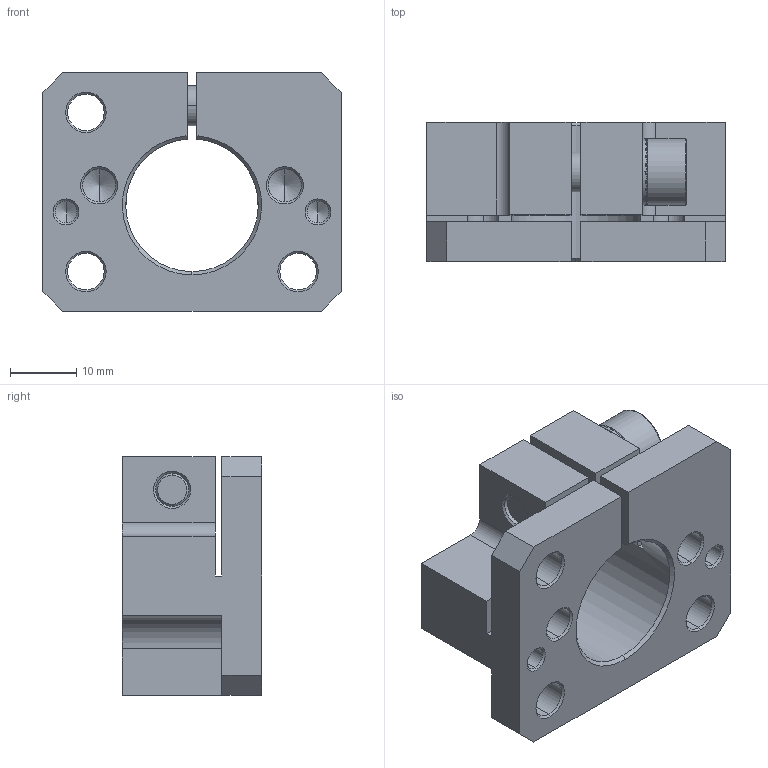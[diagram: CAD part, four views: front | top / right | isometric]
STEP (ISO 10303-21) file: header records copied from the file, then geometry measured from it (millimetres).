
FILE_DESCRIPTION (( 'STEP AP203' ), '1' );
FILE_NAME ('7.Y00255 SMBU2-20.STEP', '2023-12-25T08:23:50', ( '微软用户' ), ( '微软中国' ), 'SwSTEP 2.0', 'SolidWorks 2018', '' );
FILE_SCHEMA (( 'CONFIG_CONTROL_DESIGN' ));
Length unit declared in the file: millimetre
Products named in the file (1): 7.Y00255 SMBU2-20
Bounding box: 45 x 21 x 36 mm (x, y, z)
Volume: 17449.5 mm3; surface area: 9682.7 mm2
Topology: 3 solids, 3 shells, 315 faces, 891 edges, 574 vertices
Faces by surface type: plane 243, cone 39, cylinder 31, bspline 2
Entity records: 10292 total; most frequent: CARTESIAN_POINT 1821, DIRECTION 1801, ORIENTED_EDGE 1766, EDGE_CURVE 883, AXIS2_PLACEMENT_3D 610, VECTOR 581, LINE 581, VERTEX_POINT 574
